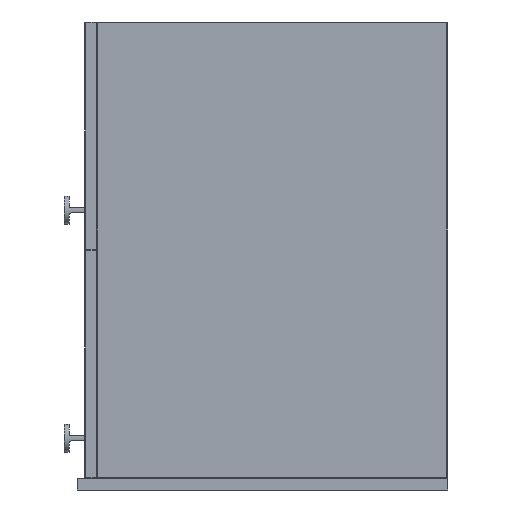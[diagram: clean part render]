
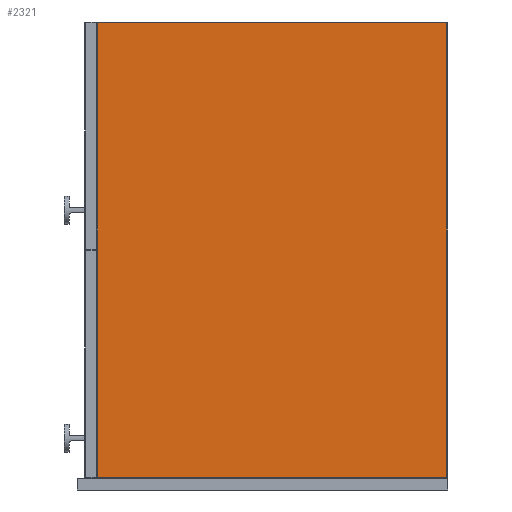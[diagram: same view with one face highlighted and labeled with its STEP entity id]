
A CAD part, left-side view. The second image highlights one B-rep face of the part: STEP entity #2321.
In plain terms, the highlighted planar face has unit normal (-1, 0, 0).
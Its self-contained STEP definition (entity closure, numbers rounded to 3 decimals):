
#86 = CARTESIAN_POINT ( 'NONE',  ( -500., 1., -285. ) ) ;
#208 = VERTEX_POINT ( 'NONE', #2302 ) ;
#258 = CARTESIAN_POINT ( 'NONE',  ( -500., 439., 286. ) ) ;
#271 = LINE ( 'NONE', #258, #1477 ) ;
#339 = DIRECTION ( 'NONE',  ( 0., 1., 0. ) ) ;
#350 = CARTESIAN_POINT ( 'NONE',  ( -500., 440., 285. ) ) ;
#362 = CARTESIAN_POINT ( 'NONE',  ( -500., 440., 286. ) ) ;
#525 = DIRECTION ( 'NONE',  ( 0., -1., 0. ) ) ;
#554 = FACE_OUTER_BOUND ( 'NONE', #2083, .T. ) ;
#560 = VECTOR ( 'NONE', #339, 1000. ) ;
#702 = VECTOR ( 'NONE', #1099, 1000. ) ;
#735 = EDGE_CURVE ( 'NONE', #208, #2363, #271, .T. ) ;
#836 = EDGE_CURVE ( 'NONE', #2070, #1050, #1979, .T. ) ;
#887 = ORIENTED_EDGE ( 'NONE', *, *, #735, .T. ) ;
#904 = CARTESIAN_POINT ( 'NONE',  ( -500., 1., 286. ) ) ;
#910 = ORIENTED_EDGE ( 'NONE', *, *, #1743, .T. ) ;
#1050 = VERTEX_POINT ( 'NONE', #1491 ) ;
#1099 = DIRECTION ( 'NONE',  ( 0., 0., 1. ) ) ;
#1101 = AXIS2_PLACEMENT_3D ( 'NONE', #362, #2008, #1755 ) ;
#1148 = ORIENTED_EDGE ( 'NONE', *, *, #836, .T. ) ;
#1273 = ORIENTED_EDGE ( 'NONE', *, *, #2165, .T. ) ;
#1285 = PLANE ( 'NONE',  #1101 ) ;
#1477 = VECTOR ( 'NONE', #1718, 1000. ) ;
#1491 = CARTESIAN_POINT ( 'NONE',  ( -500., 1., 285. ) ) ;
#1597 = CARTESIAN_POINT ( 'NONE',  ( -500., 439., -285. ) ) ;
#1718 = DIRECTION ( 'NONE',  ( 0., 0., -1. ) ) ;
#1743 = EDGE_CURVE ( 'NONE', #2363, #2070, #2012, .T. ) ;
#1755 = DIRECTION ( 'NONE',  ( 0., 0., -1. ) ) ;
#1832 = LINE ( 'NONE', #350, #560 ) ;
#1955 = VECTOR ( 'NONE', #525, 1000. ) ;
#1979 = LINE ( 'NONE', #904, #702 ) ;
#2008 = DIRECTION ( 'NONE',  ( 1., 0., 0. ) ) ;
#2012 = LINE ( 'NONE', #2172, #1955 ) ;
#2070 = VERTEX_POINT ( 'NONE', #86 ) ;
#2083 = EDGE_LOOP ( 'NONE', ( #887, #910, #1148, #1273 ) ) ;
#2165 = EDGE_CURVE ( 'NONE', #1050, #208, #1832, .T. ) ;
#2172 = CARTESIAN_POINT ( 'NONE',  ( -500., 440., -285. ) ) ;
#2302 = CARTESIAN_POINT ( 'NONE',  ( -500., 439., 285. ) ) ;
#2321 = ADVANCED_FACE ( 'NONE', ( #554 ), #1285, .F. ) ;
#2363 = VERTEX_POINT ( 'NONE', #1597 ) ;
